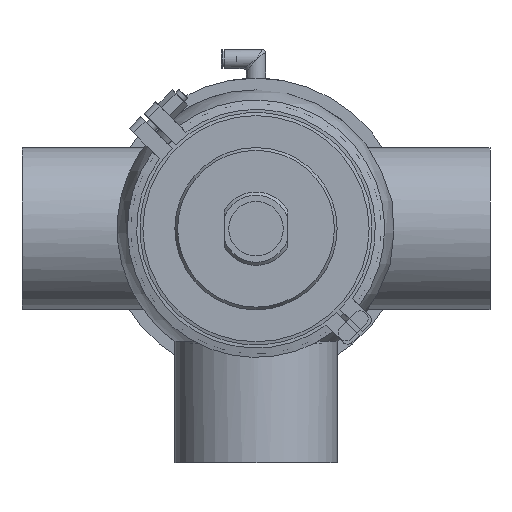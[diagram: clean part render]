
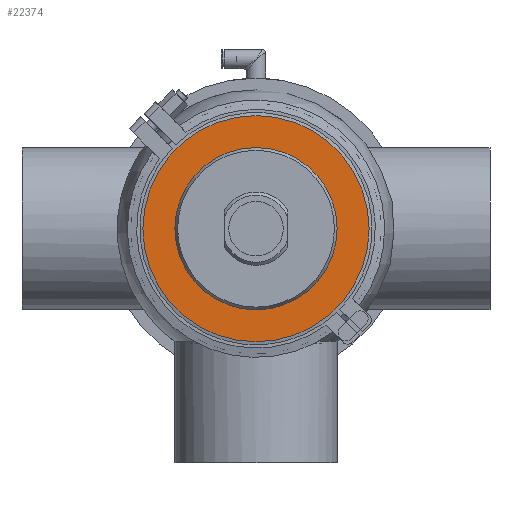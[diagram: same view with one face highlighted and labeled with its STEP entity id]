
A CAD part, front view. The second image highlights one B-rep face of the part: STEP entity #22374.
In plain terms, the highlighted planar face has unit normal (0, -1, 0).
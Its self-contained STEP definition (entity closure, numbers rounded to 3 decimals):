
#1450 = ORIENTED_EDGE ( 'NONE', *, *, #4152, .T. ) ;
#1557 = CARTESIAN_POINT ( 'NONE',  ( 0., -13., 0. ) ) ;
#2117 = EDGE_LOOP ( 'NONE', ( #15075 ) ) ;
#2486 = CARTESIAN_POINT ( 'NONE',  ( 0., -13., 72.5 ) ) ;
#3120 = DIRECTION ( 'NONE',  ( 0., 0., -1. ) ) ;
#3124 = CIRCLE ( 'NONE', #14305, 72.5 ) ;
#3189 = DIRECTION ( 'NONE',  ( 0., 0., 1. ) ) ;
#4152 = EDGE_CURVE ( 'NONE', #5304, #5304, #21533, .T. ) ;
#4153 = EDGE_LOOP ( 'NONE', ( #1450 ) ) ;
#5304 = VERTEX_POINT ( 'NONE', #21037 ) ;
#10010 = DIRECTION ( 'NONE',  ( 0., 1., 0. ) ) ;
#10062 = AXIS2_PLACEMENT_3D ( 'NONE', #22731, #22844, #3120 ) ;
#11503 = AXIS2_PLACEMENT_3D ( 'NONE', #1557, #19512, #3189 ) ;
#13492 = DIRECTION ( 'NONE',  ( 0., 0., 1. ) ) ;
#13727 = EDGE_CURVE ( 'NONE', #14869, #14869, #3124, .T. ) ;
#13863 = FACE_OUTER_BOUND ( 'NONE', #2117, .T. ) ;
#14305 = AXIS2_PLACEMENT_3D ( 'NONE', #17094, #10010, #13492 ) ;
#14869 = VERTEX_POINT ( 'NONE', #2486 ) ;
#15075 = ORIENTED_EDGE ( 'NONE', *, *, #13727, .F. ) ;
#17094 = CARTESIAN_POINT ( 'NONE',  ( 0., -13., 0. ) ) ;
#19094 = FACE_BOUND ( 'NONE', #4153, .T. ) ;
#19338 = PLANE ( 'NONE',  #10062 ) ;
#19512 = DIRECTION ( 'NONE',  ( 0., 1., 0. ) ) ;
#21037 = CARTESIAN_POINT ( 'NONE',  ( 0., -13., 52. ) ) ;
#21533 = CIRCLE ( 'NONE', #11503, 52. ) ;
#22374 = ADVANCED_FACE ( 'NONE', ( #19094, #13863 ), #19338, .T. ) ;
#22731 = CARTESIAN_POINT ( 'NONE',  ( -72.5, -13., 0. ) ) ;
#22844 = DIRECTION ( 'NONE',  ( 0., -1., 0. ) ) ;
